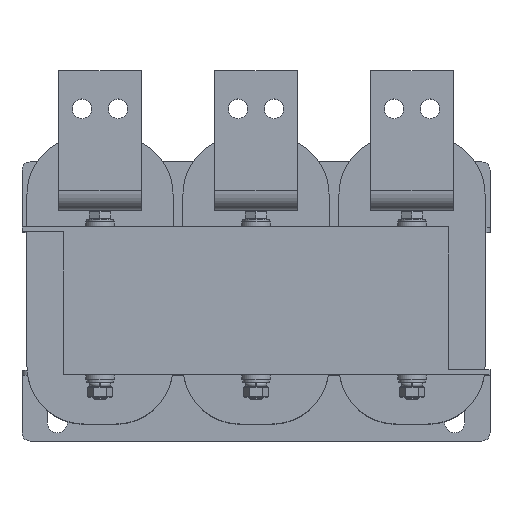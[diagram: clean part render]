
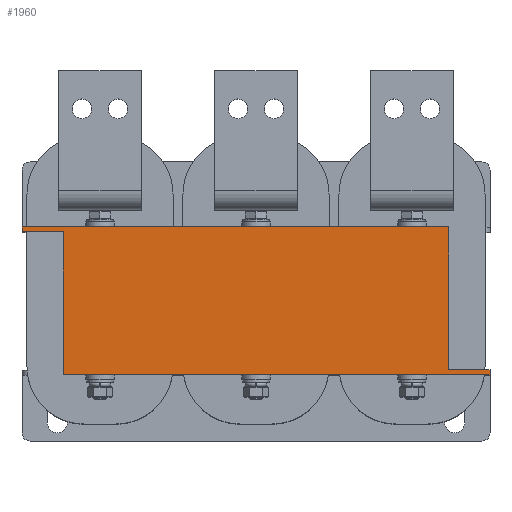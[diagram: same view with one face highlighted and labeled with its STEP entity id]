
A CAD part, top view. The second image highlights one B-rep face of the part: STEP entity #1960.
In plain terms, the highlighted planar face has unit normal (0, 0, 1).
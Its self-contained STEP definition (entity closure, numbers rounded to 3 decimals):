
#1960=ADVANCED_FACE('',(#2695),#2697,.T.);
#2695=FACE_BOUND('',#2696,.T.);
#2696=EDGE_LOOP('',(#3552,#3553,#3554,#3555,#3556,#3557,#3558,#3559));
#2697=PLANE('',#2698);
#2698=AXIS2_PLACEMENT_3D('',#2699,#2700,#2701);
#2699=CARTESIAN_POINT('',(0.,0.,50.));
#2700=DIRECTION('',(0.,0.,1.));
#2701=DIRECTION('',(-1.,0.,0.));
#3552=ORIENTED_EDGE('',*,*,#3960,.T.);
#3553=ORIENTED_EDGE('',*,*,#3979,.T.);
#3554=ORIENTED_EDGE('',*,*,#3949,.T.);
#3555=ORIENTED_EDGE('',*,*,#3980,.T.);
#3556=ORIENTED_EDGE('',*,*,#3941,.T.);
#3557=ORIENTED_EDGE('',*,*,#3981,.T.);
#3558=ORIENTED_EDGE('',*,*,#3930,.T.);
#3559=ORIENTED_EDGE('',*,*,#3978,.T.);
#3930=EDGE_CURVE('',#4352,#4350,#4353,.T.);
#3941=EDGE_CURVE('',#4374,#4372,#4375,.T.);
#3949=EDGE_CURVE('',#4390,#4388,#4391,.T.);
#3960=EDGE_CURVE('',#4412,#4410,#4413,.T.);
#3978=EDGE_CURVE('',#4350,#4412,#4435,.T.);
#3979=EDGE_CURVE('',#4410,#4390,#4436,.T.);
#3980=EDGE_CURVE('',#4388,#4374,#4437,.T.);
#3981=EDGE_CURVE('',#4372,#4352,#4438,.T.);
#4350=VERTEX_POINT('',#5236);
#4352=VERTEX_POINT('',#5240);
#4353=LINE('',#5241,#5242);
#4372=VERTEX_POINT('',#5285);
#4374=VERTEX_POINT('',#5289);
#4375=LINE('',#5290,#5291);
#4388=VERTEX_POINT('',#5319);
#4390=VERTEX_POINT('',#5323);
#4391=LINE('',#5324,#5325);
#4410=VERTEX_POINT('',#5368);
#4412=VERTEX_POINT('',#5372);
#4413=LINE('',#5373,#5374);
#4435=LINE('',#5433,#5434);
#4436=LINE('',#5436,#5437);
#4437=LINE('',#5439,#5440);
#4438=LINE('',#5442,#5443);
#5236=CARTESIAN_POINT('',(-142.5,45.,50.));
#5240=CARTESIAN_POINT('',(117.5,45.,50.));
#5241=CARTESIAN_POINT('',(117.5,45.,50.));
#5242=VECTOR('',#5243,1.);
#5243=DIRECTION('',(-1.,0.,0.));
#5285=CARTESIAN_POINT('',(117.5,-42.,50.));
#5289=CARTESIAN_POINT('',(142.5,-42.,50.));
#5290=CARTESIAN_POINT('',(142.5,-42.,50.));
#5291=VECTOR('',#5292,1.);
#5292=DIRECTION('',(-1.,0.,0.));
#5319=CARTESIAN_POINT('',(142.5,-45.,50.));
#5323=CARTESIAN_POINT('',(-117.5,-45.,50.));
#5324=CARTESIAN_POINT('',(-117.5,-45.,50.));
#5325=VECTOR('',#5326,1.);
#5326=DIRECTION('',(1.,0.,0.));
#5368=CARTESIAN_POINT('',(-117.5,42.,50.));
#5372=CARTESIAN_POINT('',(-142.5,42.,50.));
#5373=CARTESIAN_POINT('',(-142.5,42.,50.));
#5374=VECTOR('',#5375,1.);
#5375=DIRECTION('',(1.,0.,0.));
#5433=CARTESIAN_POINT('',(-142.5,45.,50.));
#5434=VECTOR('',#5435,1.);
#5435=DIRECTION('',(0.,-1.,0.));
#5436=CARTESIAN_POINT('',(-117.5,42.,50.));
#5437=VECTOR('',#5438,1.);
#5438=DIRECTION('',(0.,-1.,0.));
#5439=CARTESIAN_POINT('',(142.5,-45.,50.));
#5440=VECTOR('',#5441,1.);
#5441=DIRECTION('',(0.,1.,0.));
#5442=CARTESIAN_POINT('',(117.5,-42.,50.));
#5443=VECTOR('',#5444,1.);
#5444=DIRECTION('',(0.,1.,0.));
